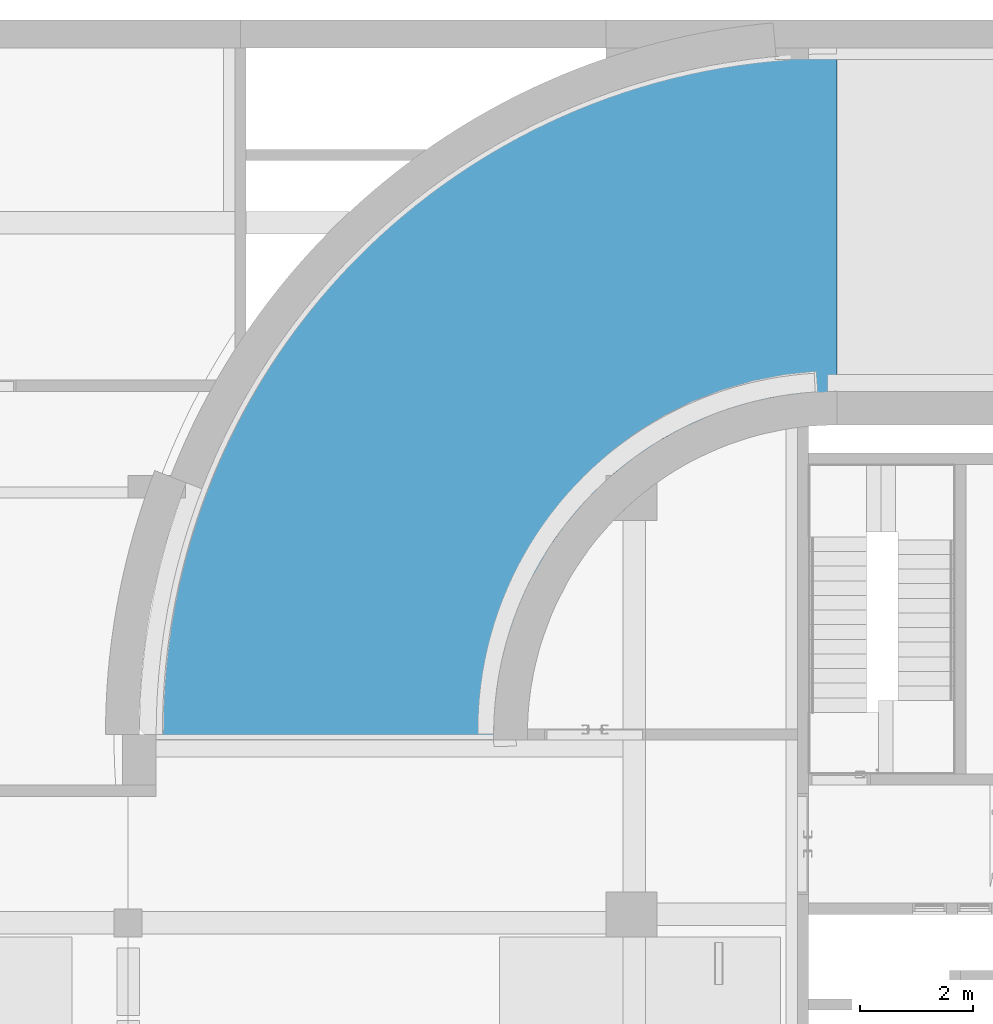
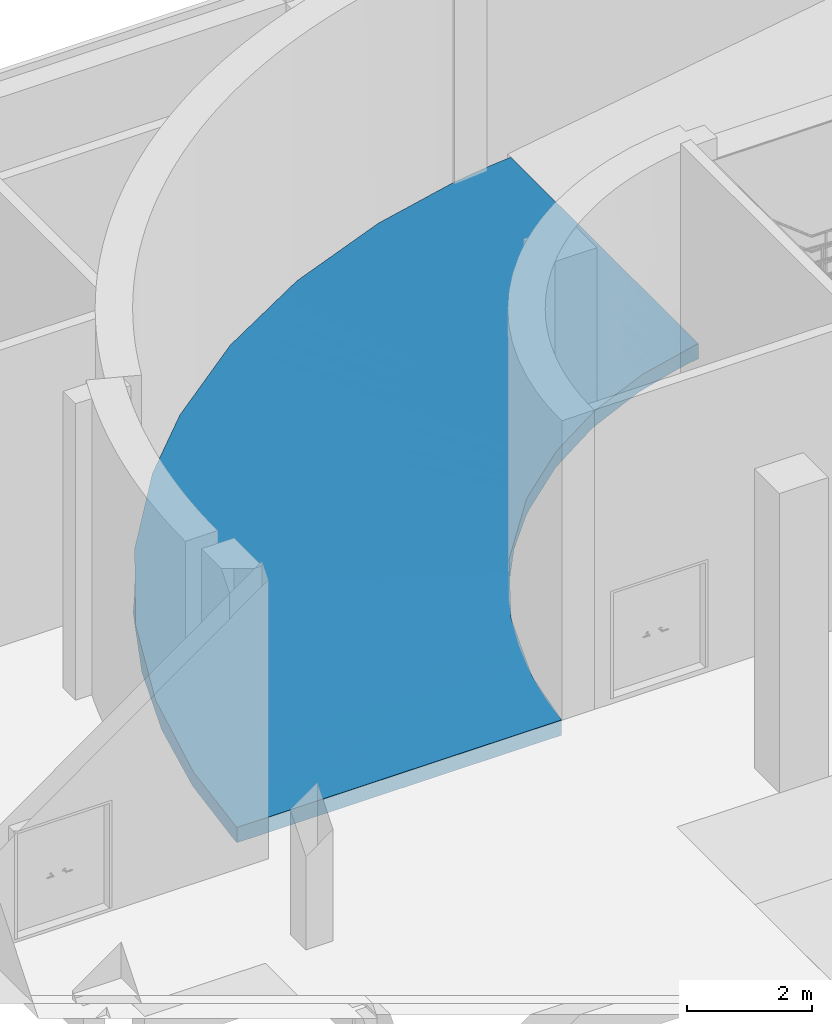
# One storey, part 26 of 29: 1 ramp.
"""IFC2X3 building model written with IfcOpenShell, lengths in millimetres."""

from ifc_helpers import new_model, entity, si_unit, converted_unit, derived_unit, direction, frame, origin, place, context, subcontext, project, spatial, faceted_brep, material, element, save


model = new_model("IFC2X3")

# Units and contexts
model_context = context("Model", 3, precision=0.01, world=origin(), true_north=direction((6.123031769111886e-17, 1.0)))
body_context = subcontext(model_context, "Body", "Model", "MODEL_VIEW")
ifc_project = project(units=[si_unit("LENGTHUNIT", "METRE", prefix="MILLI"), si_unit("AREAUNIT", "SQUARE_METRE"), si_unit("VOLUMEUNIT", "CUBIC_METRE"), converted_unit("PLANEANGLEUNIT", "DEGREE", entity("IfcRatioMeasure", 0.017453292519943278), si_unit("PLANEANGLEUNIT", "RADIAN"), dimensions=[0, 0, 0, 0, 0, 0, 0]), si_unit("MASSUNIT", "GRAM", prefix="KILO"), derived_unit("MASSDENSITYUNIT", [(si_unit("MASSUNIT", "GRAM", prefix="KILO"), 1), (si_unit("LENGTHUNIT", "METRE"), -3)]), derived_unit("MOMENTOFINERTIAUNIT", [(si_unit("LENGTHUNIT", "METRE"), 4)]), si_unit("TIMEUNIT", "SECOND"), si_unit("FREQUENCYUNIT", "HERTZ"), si_unit("THERMODYNAMICTEMPERATUREUNIT", "DEGREE_CELSIUS"), derived_unit("THERMALTRANSMITTANCEUNIT", [(si_unit("MASSUNIT", "GRAM", prefix="KILO"), 1), (si_unit("THERMODYNAMICTEMPERATUREUNIT", "KELVIN"), -1), (si_unit("TIMEUNIT", "SECOND"), -3)]), derived_unit("VOLUMETRICFLOWRATEUNIT", [(si_unit("LENGTHUNIT", "METRE"), 3), (si_unit("TIMEUNIT", "SECOND"), -1)]), derived_unit("MASSFLOWRATEUNIT", [(si_unit("MASSUNIT", "GRAM", prefix="KILO"), 1), (si_unit("TIMEUNIT", "SECOND"), -1)]), derived_unit("ROTATIONALFREQUENCYUNIT", [(si_unit("TIMEUNIT", "SECOND"), -1)]), si_unit("ELECTRICCURRENTUNIT", "AMPERE"), si_unit("ELECTRICVOLTAGEUNIT", "VOLT"), si_unit("POWERUNIT", "WATT"), si_unit("FORCEUNIT", "NEWTON", prefix="KILO"), si_unit("ILLUMINANCEUNIT", "LUX"), si_unit("LUMINOUSFLUXUNIT", "LUMEN"), si_unit("LUMINOUSINTENSITYUNIT", "CANDELA"), derived_unit("USERDEFINED", [(si_unit("MASSUNIT", "GRAM", prefix="KILO"), -1), (si_unit("LENGTHUNIT", "METRE"), -2), (si_unit("TIMEUNIT", "SECOND"), 3), (si_unit("LUMINOUSFLUXUNIT", "LUMEN"), 1)]), derived_unit("SOUNDPOWERUNIT", [(si_unit("MASSUNIT", "GRAM", prefix="KILO"), 1), (si_unit("LENGTHUNIT", "METRE"), 2), (si_unit("TIMEUNIT", "SECOND"), -3)]), derived_unit("SOUNDPRESSUREUNIT", [(si_unit("MASSUNIT", "GRAM", prefix="KILO"), 1), (si_unit("LENGTHUNIT", "METRE"), -1), (si_unit("TIMEUNIT", "SECOND"), -2)]), derived_unit("LINEARVELOCITYUNIT", [(si_unit("LENGTHUNIT", "METRE"), 1), (si_unit("TIMEUNIT", "SECOND"), -1)]), si_unit("PRESSUREUNIT", "PASCAL"), derived_unit("USERDEFINED", [(si_unit("LENGTHUNIT", "METRE"), -2), (si_unit("MASSUNIT", "GRAM", prefix="KILO"), 1), (si_unit("TIMEUNIT", "SECOND"), -2)]), derived_unit("LINEARFORCEUNIT", [(si_unit("MASSUNIT", "GRAM", prefix="KILO"), 1), (si_unit("LENGTHUNIT", "METRE"), 1), (si_unit("TIMEUNIT", "SECOND"), -2), (si_unit("LENGTHUNIT", "METRE"), -1)]), derived_unit("PLANARFORCEUNIT", [(si_unit("MASSUNIT", "GRAM", prefix="KILO"), 1), (si_unit("LENGTHUNIT", "METRE"), 1), (si_unit("TIMEUNIT", "SECOND"), -2), (si_unit("LENGTHUNIT", "METRE"), -2)])], contexts=[model_context])

# Site, building, storey
site_placement = place(None, frame((-14167.972527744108, -657.2125860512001, 0.0)))
site = spatial("IfcSite", under=ifc_project, at=site_placement, Name="Default", CompositionType="ELEMENT")
building_placement = place(site_placement, origin())
building = spatial("IfcBuilding", under=site, at=building_placement, Name="Sample Building", CompositionType="ELEMENT")
storey_placement = place(building_placement, frame((0.0, 0.0, -6100.0)))
storey = spatial("IfcBuildingStorey", under=building, at=storey_placement, Name="지하1층", CompositionType="ELEMENT", Elevation=-6099.999999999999)

# Ramp
ifc_material = material(Name="KBIMS-콘크리트")
ramp_placement = place(storey_placement, origin())
element("IfcRamp", 1, at=ramp_placement, inside=storey, material=ifc_material, Name="바닥:RP111-철근콘크리트구조 램프 (돌음형) 300mm", ObjectType="바닥:RP111-철근콘크리트구조 램프 (돌음형) 300mm", ShapeType="SPIRAL_RAMP", context=body_context, shape_type="Brep", body=[
    faceted_brep([(20738.97232630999, 29926.93576570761, 658.0770551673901), (20734.729595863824, 29860.132539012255, 353.60146371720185), (20621.303414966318, 29718.849789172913, 639.719256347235), (18736.587922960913, 24271.06783358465, -107.41619392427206), (18753.718326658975, 24595.161149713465, 217.48988544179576), (18759.45973356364, 24642.34575360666, -78.86328020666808), (20150.627769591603, 28886.50588303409, 566.288061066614), (20231.888592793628, 29075.037131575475, 282.0079596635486), (20106.178342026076, 28878.763279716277, 264.10958365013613), (19794.576572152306, 28200.80862723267, 206.8347887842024), (19630.789830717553, 27814.18327199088, 474.4990654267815), (19797.62103556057, 28262.24795342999, 511.2146646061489), (21632.885179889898, 31048.6268086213, 768.2238380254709), (21781.870655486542, 31235.57531577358, 786.5816351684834), (21597.358191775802, 31015.527626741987, 464.57139264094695), (21334.914228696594, 30674.729794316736, 731.5082437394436), (18667.972491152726, 23157.234073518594, -193.0749350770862), (18668.309275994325, 23066.934513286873, 100.0), (18689.661538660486, 23448.99117239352, 129.37247136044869), (24608.98378989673, 33572.434733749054, 1069.2917255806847), (24265.750348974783, 33318.997746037, 736.626690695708), (24217.969377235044, 33297.316459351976, 1032.576127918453), (23480.436035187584, 32816.49863790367, 665.0331890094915), (23435.940551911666, 32747.07991055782, 959.14493259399), (23826.954964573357, 33022.1981849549, 995.8605302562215), (22781.646035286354, 32199.299898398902, 593.4396912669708), (23044.92613924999, 32471.961636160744, 922.4293349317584), (23131.04103523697, 32507.899268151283, 629.2364401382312), (22257.553535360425, 31736.400843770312, 539.7445679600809), (22082.856035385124, 31582.101158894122, 521.8461935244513), (22209.37363312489, 31684.88327623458, 834.3119079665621), (22432.251035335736, 31890.70052864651, 557.6429423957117), (20609.019345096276, 29663.858687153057, 335.7030877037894), (21111.860348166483, 30448.954094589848, 407.29659175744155), (21185.928753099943, 30487.781287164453, 713.1504465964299), (21354.60926997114, 30732.240860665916, 435.9339921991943), (23873.09319208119, 33067.74819197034, 700.8299398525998), (21840.107113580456, 31298.814392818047, 493.2087930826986), (21930.856131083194, 31422.52382292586, 804.9394323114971), (27241.348793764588, 34692.31410628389, 1289.5853011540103), (27300.23309577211, 34712.10472866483, 994.363297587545), (26853.74014434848, 34578.10770463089, 958.5665506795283), (19463.958625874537, 27366.118590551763, 437.7834662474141), (19482.974802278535, 27522.85397474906, 149.55999391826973), (19370.351563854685, 27168.339894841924, 121.00708293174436), (18668.309275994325, 23066.93451328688, 0.0), (18668.056645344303, 23112.08443602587, -196.5374715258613), (18668.309275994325, 23066.934513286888, -200.0), (19915.289946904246, 28470.33392996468, 529.5724634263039), (19547.374228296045, 27590.150931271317, 456.1412658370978), (19638.77568721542, 27861.831300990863, 178.19739135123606), (18713.716112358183, 23899.78991356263, -135.96910764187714), (18732.366063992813, 24213.104490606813, 188.117414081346), (18964.22631982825, 25739.18467974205, 6.7954424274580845), (19036.15174380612, 26001.282208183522, 327.6366722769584), (19032.48184858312, 26104.79765512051, 35.34834997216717), (19083.22397999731, 26235.635717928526, 345.99447008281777), (19145.105087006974, 26459.311735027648, 63.901260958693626), (18894.935035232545, 25298.221678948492, 272.5632788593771), (18942.00727142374, 25532.575188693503, 290.92107666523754), (18895.97079107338, 25373.57170436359, -21.757465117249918), (18847.862799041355, 25063.868169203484, 254.20548105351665), (19130.2962161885, 26469.989227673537, 364.35226788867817), (25038.466158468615, 33782.512042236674, 1106.007323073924), (25467.9485270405, 33992.589350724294, 1142.7229205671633), (25390.110295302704, 33977.15031077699, 836.8575952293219), (26068.201560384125, 34288.4572239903, 894.1324009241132), (25897.430895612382, 34202.66665921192, 1179.4385180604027), (26112.172079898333, 34307.705313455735, 1197.7963168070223), (26326.913264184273, 34412.74396769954, 1216.154115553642), (18690.844301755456, 23528.51199354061, -164.52202135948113), (20986.15009739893, 30252.68024273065, 389.39821574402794), (20887.957801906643, 30113.88427285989, 676.4348523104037), (21036.94327750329, 30300.832780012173, 694.7926494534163), (20860.43984663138, 30056.406390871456, 371.4998397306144), (24658.407505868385, 33570.24730010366, 772.4234415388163), (22487.89113516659, 31947.2427295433, 863.6843836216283), (29678.447764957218, 35208.06023961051, 1181.3153701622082), (29667.94641218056, 35207.10619240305, 1180.5064183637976), (29667.94641218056, 35207.10619240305, 1480.5064183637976), (29678.447764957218, 35208.06023961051, 1481.3153701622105), (27746.726047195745, 34846.10175269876, 1030.160044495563), (28155.7843233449, 34971.88424486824, 1363.0164867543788), (28193.21899861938, 34980.0987767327, 1065.956791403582), (29299.26455882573, 35150.35433848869, 1151.869011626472), (28930.58270539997, 35093.60248456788, 1123.2316048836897), (18711.013801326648, 23831.047831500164, 158.74494272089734), (29688.94996382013, 35209.00513667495, 1482.1243215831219), (29688.949963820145, 35209.00513667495, 1182.1243215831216), (20268.29668093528, 29094.591859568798, 584.645859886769), (30517.892982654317, 35254.627744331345, 1545.8195036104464), (30767.972491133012, 35257.21230798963, 1565.0), (30767.972491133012, 35257.21230798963, 1265.0), (30517.892982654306, 35254.627744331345, 1245.819503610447), (26407.247192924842, 34444.11068059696, 922.7698037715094), (26784.131028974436, 34552.52903699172, 1252.8697083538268), (30267.946412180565, 35246.87623716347, 1226.6389270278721), (29978.209132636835, 35231.41099103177, 1204.381623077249), (29978.209132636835, 35231.41099103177, 1504.38162307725), (30267.946412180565, 35246.87623716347, 1526.6389270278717), (25051.064662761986, 33821.49685417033, 808.2201923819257), (25729.155927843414, 34132.803767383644, 865.494998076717), (28911.865367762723, 35089.495218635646, 1421.7614525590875), (28561.90085202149, 35036.85063065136, 1094.5941981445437), (27698.566558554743, 34832.09917557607, 1326.3008939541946), (19950.37745708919, 28539.785953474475, 235.4721862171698), (20032.95885824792, 28678.419906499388, 547.9302622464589), (19297.127421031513, 26918.053909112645, 401.0678670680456), (19380.543023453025, 27142.086249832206, 419.4256666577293), (25682.689711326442, 34097.62800496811, 1161.080719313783), (19257.728325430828, 26813.82581493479, 92.45417194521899), (28533.824845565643, 35030.68973175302, 1392.3889696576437), (22766.408637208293, 32209.602182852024, 893.0568592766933), (18827.71526231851, 25007.95872898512, -50.310372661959), (22070.11488210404, 31553.703549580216, 819.6256701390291), (20483.309094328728, 29467.58483529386, 317.8047116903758), (20385.96559227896, 29302.677836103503, 603.0036587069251), (20503.634503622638, 29510.763812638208, 621.3614575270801), (19213.711818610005, 26694.021568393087, 382.7100674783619), (20357.598843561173, 29271.310983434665, 299.9063356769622), (29289.905890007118, 35148.30070552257, 1451.1339354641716), (18989.079507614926, 25766.928698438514, 309.27887447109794), (30767.97249113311, 32928.6885007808, 1565.0), (30767.97249113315, 29257.212307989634, 1565.0), (30767.97249113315, 29257.212307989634, 1530.3211704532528), (30767.97249113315, 29257.212307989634, 1265.0), (30767.972491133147, 29557.2126170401, 1265.0), (30767.972491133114, 32407.21246251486, 1265.0), (27645.416901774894, 28397.407589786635, 1068.484463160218), (27424.494606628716, 28237.3588466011, 1027.1081634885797), (27620.59625129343, 28382.537446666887, 764.1017799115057), (27191.161986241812, 28069.875031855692, 683.5405221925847), (27203.57231148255, 28077.31010341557, 985.7318638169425), (26982.650016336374, 27917.261360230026, 944.3555641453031), (26761.7277211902, 27757.212617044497, 902.9792644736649), (28336.35853267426, 28732.660243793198, 884.9436606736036), (28574.945959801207, 28849.367842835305, 925.2242875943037), (28383.1405634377, 28751.790241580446, 1192.6133379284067), (27859.183678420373, 28499.245045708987, 804.3824068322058), (28097.77110554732, 28615.952644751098, 844.6630337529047), (27891.32478899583, 28515.53514038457, 1109.8607547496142), (25081.238258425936, 25364.25869775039, 155.72605396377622), (25193.94029253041, 25594.92432992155, 194.6576136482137), (25119.386643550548, 25460.140427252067, 471.35570016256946), (24667.981584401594, 23167.745009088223, -184.7390973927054), (24679.258458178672, 23350.244703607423, -157.0282372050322), (24690.535331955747, 23532.744398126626, -129.31737701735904), (24688.89513099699, 23338.23833194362, 141.26173967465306), (26714.627006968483, 27715.763655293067, 893.4762097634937), (26714.627023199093, 27715.76366972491, 593.4762130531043), (26761.7277211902, 27757.212617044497, 602.9792644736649), (26218.762296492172, 27163.80490956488, 780.8187946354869), (26106.464085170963, 27036.29801815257, 755.0302040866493), (26131.23977064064, 27120.886068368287, 467.17847440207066), (24749.658822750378, 24152.149787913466, 265.0469586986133), (24752.337573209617, 24138.380107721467, -36.947828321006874), (24795.874800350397, 24315.64861783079, 290.83555138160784), (26667.95514177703, 27673.832475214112, 883.9731568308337), (26667.95514177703, 27673.832475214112, 583.9731568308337), (25994.165873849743, 26908.791126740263, 729.2416135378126), (25881.86766252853, 26781.284235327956, 703.4530229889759), (25981.441426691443, 26912.394857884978, 428.2469289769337), (24668.640567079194, 23066.934513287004, 100.0), (30617.08072963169, 29243.661246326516, 1542.022749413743), (30577.068621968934, 29254.22433952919, 1236.0944710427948), (25306.642326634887, 25825.589962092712, 233.58917333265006), (25419.344360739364, 26056.255594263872, 272.5207330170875), (25444.47804737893, 26056.958885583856, 574.5100663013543), (30496.254117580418, 29232.81023064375, 1523.6237108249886), (28137.232676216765, 28633.66269098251, 1151.2370463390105), (30386.40684531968, 29245.2668131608, 1207.188617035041), (30360.39493080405, 29220.60919197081, 1502.9355662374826), (30224.535744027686, 29208.40815329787, 1482.2474216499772), (25688.296600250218, 26504.5727293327, 651.875840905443), (25607.023749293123, 26355.368114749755, 626.0872493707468), (25681.84473879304, 26495.41243691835, 350.38383812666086), (25769.569451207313, 26653.777343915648, 677.6644324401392), (29952.817370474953, 29184.00607595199, 1440.8711324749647), (30188.75857397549, 29219.833536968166, 1176.9781340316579), (29085.379859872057, 28996.450775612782, 1005.7854863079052), (29340.59680990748, 29069.99224200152, 1046.0660856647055), (29155.07372379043, 29014.760895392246, 1316.742236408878), (29418.086360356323, 29087.182446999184, 1358.118539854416), (29595.81375994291, 29143.53370839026, 1086.3466850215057), (28892.061087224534, 28942.339343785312, 1275.3659329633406), (28830.162909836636, 28922.909309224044, 965.5048869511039), (24842.090777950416, 24479.14744774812, 316.6241440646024), (24791.586066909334, 24379.016428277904, 0.0), (24709.149694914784, 23609.542150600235, 182.5234793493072), (24713.0890795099, 23897.743787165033, -73.89565664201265), (24729.40425883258, 23880.84596925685, 223.78521902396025), (24701.812205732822, 23715.244092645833, -101.60651682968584), (28629.048450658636, 28869.917792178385, 1233.9896295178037), (24667.974764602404, 23162.478836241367, -185.53634659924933), (24668.640567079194, 23066.934513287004, 0.0), (25525.750898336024, 26206.163500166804, 600.2986578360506), (24668.640567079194, 23066.934513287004, -200.0), (24668.139498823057, 23112.074010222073, -193.16683522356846), (25831.64308274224, 26703.90364740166, 389.3153835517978), (24667.97249113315, 23157.212617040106, -186.33359475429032), (29681.09899692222, 29159.60399860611, 1399.4948432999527), (25532.04639484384, 26286.921226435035, 311.45229270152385), (25008.825210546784, 25117.948130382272, 116.79454047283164), (25026.954688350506, 25133.14276741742, 419.7785147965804), (24936.412162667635, 24871.637563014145, 77.86302698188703), (29793.462031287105, 29168.966984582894, 1116.557168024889), (26265.418613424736, 27259.12267007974, 496.3771450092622), (26399.597456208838, 27397.359271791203, 525.5758156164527), (26533.776298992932, 27535.595873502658, 554.7744862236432), (26443.358719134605, 27418.818692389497, 832.3959757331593), (25073.170665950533, 25296.641597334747, 445.56710747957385), (29991.1103026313, 29194.400260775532, 1146.7676510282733), (24863.999114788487, 24625.326995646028, 38.931513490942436), (25281.93234546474, 25758.54965641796, 522.9328832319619), (26976.44485371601, 27913.543824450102, 643.2598933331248), (27405.879118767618, 28226.20623926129, 723.8211510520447), (24934.52273315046, 24806.145107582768, 368.2013294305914), (25200.659494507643, 25609.345041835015, 497.14429169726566), (26555.656930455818, 27546.325583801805, 858.184566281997), (24980.738710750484, 24969.64393750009, 393.9899221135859), (26331.060507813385, 27291.31180097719, 806.6073851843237), (24888.306755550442, 24642.64627766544, 342.41273674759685), (20996.96131260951, 23066.934513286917, 100.0), (20996.96131260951, 23066.93451328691, -200.0), (30279.603358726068, 32292.046582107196, 1515.5101019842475), (24703.63424665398, 29937.804719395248, 888.7245705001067), (25594.186818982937, 30814.159598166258, 1014.2182915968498), (25991.08928038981, 30925.84279817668, 1054.0523445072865), (29943.43789090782, 32218.427329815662, 1480.9108710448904), (25336.97688685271, 30630.61886160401, 982.5207978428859), (28594.74428936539, 32126.290750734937, 1344.6586942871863), (22217.37744037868, 26517.248993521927, 456.1411978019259), (22575.17900516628, 26762.87375294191, 493.54739418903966), (24390.66958727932, 29190.478764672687, 811.5849388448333), (24291.38228346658, 29750.32234977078, 845.2902567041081), (26555.07061101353, 31340.999311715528, 1124.3650771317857), (29487.465608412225, 32330.137498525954, 1436.4477584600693), (26297.713147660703, 31054.81572935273, 1087.6494776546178), (29001.96035486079, 31610.89783755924, 1374.1962344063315), (23094.17738251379, 28545.99321447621, 676.434872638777), (23514.59769391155, 28736.105309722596, 716.8108776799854), (26827.9433321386, 31503.54023980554, 1156.199225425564), (27849.784855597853, 32054.88161516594, 1271.2275086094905), (27499.307698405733, 31791.10713221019, 1229.5526502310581), (25128.727481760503, 29930.03741424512, 921.6368614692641), (25216.54980207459, 30289.925116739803, 952.0698799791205), (23148.80147171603, 28098.558492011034, 642.4373181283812), (23827.015748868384, 29304.510696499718, 780.8751731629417), (23812.9967882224, 28911.818416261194, 749.8660638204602), (21651.457839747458, 25158.523786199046, 309.278925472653), (23068.140830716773, 27696.608222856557, 603.0036135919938), (22658.596036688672, 27576.012734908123, 571.4984227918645), (21752.693359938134, 24802.93036426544, 276.479080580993), (21767.554175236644, 23733.98264926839, 168.56933140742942), (21772.4912294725, 24051.242981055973, 201.0486300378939), (21771.03708445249, 23360.13806158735, 130.18543179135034), (22169.13023987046, 25388.514910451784, 344.68850008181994), (22065.13777062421, 26237.22597042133, 424.3458831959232), (21966.91853378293, 25816.72164620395, 381.095625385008), (21596.46494415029, 24419.93344650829, 235.8477356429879), (22371.591275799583, 27252.184473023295, 529.5724240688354), (29143.853898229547, 32380.087580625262, 1403.4247626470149), (27157.861236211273, 31788.657255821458, 1197.7962744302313), (28287.06726175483, 32053.453001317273, 1312.919948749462), (29506.92774807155, 32269.469932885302, 1137.550381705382), (21656.5893484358, 24406.756509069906, -64.58679471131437), (29952.869699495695, 32202.133994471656, 1181.7198178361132), (30198.939976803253, 32550.32030491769, 1208.9252356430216), (30483.084543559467, 32328.688236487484, 1236.22903573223), (28255.568784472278, 32142.324752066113, 1012.2616603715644), (28582.357217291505, 32150.565395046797, 1044.0215934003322), (27625.02781179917, 31769.155062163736, 940.6681660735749), (24265.20056205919, 29606.891011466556, 533.2687962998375), (27351.115209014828, 31508.409164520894, 905.0839770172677), (25304.94095251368, 30615.666600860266, 679.0386717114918), (24985.796408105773, 30507.475830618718, 647.1348719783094), (28973.683522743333, 31694.43268982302, 1073.0579253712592), (29147.732800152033, 32279.688640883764, 1102.075414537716), (21869.767058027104, 23545.155164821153, -150.24548929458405), (21511.942851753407, 23911.505499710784, -115.63330423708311), (24706.916974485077, 29589.913447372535, 564.7880741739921), (24771.23961208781, 30002.20953410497, 598.2276485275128), (25575.129558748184, 30924.224948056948, 718.7283382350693), (21874.06015072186, 25609.040940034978, 58.39727786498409), (27987.6675167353, 31875.273254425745, 978.869750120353), (23909.96610945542, 29242.253172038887, 481.77782279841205), (23480.829192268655, 28821.92408097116, 421.52910076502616), (23180.366617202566, 28645.397029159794, 389.3982035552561), (22671.321075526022, 27673.408813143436, 280.6341038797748), (22620.069843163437, 27329.591144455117, 247.7754621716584), (22765.672884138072, 26892.30307245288, 214.1233841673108), (22008.713620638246, 26310.620526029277, 129.3013154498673), (22184.989702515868, 25836.03456843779, 89.66829962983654), (26258.990899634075, 31177.913719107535, 790.3218410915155), (21897.374137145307, 24883.30750738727, -12.632855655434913), (22002.872642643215, 25179.73453905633, 19.465763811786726), (22807.831264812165, 28026.04759607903, 317.8046993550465), (22220.517805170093, 26598.88227139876, 163.87878485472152), (23040.510880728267, 28254.549498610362, 349.5315496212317), (25947.768733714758, 30954.990018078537, 751.8483350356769), (26637.764353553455, 31204.09919085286, 825.5265310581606), (26930.251870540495, 31315.612170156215, 857.5227951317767), (24064.878945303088, 28722.335945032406, 451.60326495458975)], [[[0, 1, 2]], [[3, 4, 5]], [[6, 7, 8]], [[9, 10, 11]], [[12, 13, 14, 15]], [[16, 17, 18]], [[19, 20, 21]], [[22, 23, 24]], [[25, 26, 27]], [[28, 29, 30, 31]], [[1, 32, 2]], [[33, 34, 35]], [[36, 22, 24]], [[37, 13, 38]], [[38, 29, 37]], [[39, 40, 41]], [[42, 43, 44]], [[45, 17, 16]], [[45, 46, 47]], [[46, 45, 16]], [[48, 9, 11]], [[49, 10, 50]], [[51, 52, 3]], [[53, 54, 55]], [[55, 56, 57]], [[50, 43, 49]], [[34, 15, 35]], [[58, 59, 60, 61]], [[56, 62, 57]], [[63, 64, 65]], [[66, 67, 68, 69]], [[16, 18, 70]], [[71, 72, 73]], [[72, 71, 74]], [[63, 75, 19]], [[76, 25, 31]], [[77, 78, 79, 80]], [[81, 82, 83]], [[79, 78, 84, 85]], [[86, 51, 70]], [[87, 88, 77, 80]], [[6, 89, 7]], [[90, 91, 92, 93]], [[94, 69, 95]], [[96, 97, 98, 99]], [[39, 41, 95]], [[90, 93, 96, 99]], [[87, 98, 97, 88]], [[75, 63, 100]], [[69, 94, 66]], [[64, 101, 65]], [[95, 41, 94]], [[102, 85, 103, 83]], [[100, 63, 65]], [[40, 104, 81]], [[105, 48, 106]], [[19, 75, 20]], [[44, 107, 108, 42]], [[67, 101, 64, 109]], [[107, 44, 110]], [[30, 76, 31]], [[83, 82, 111, 102]], [[26, 25, 76, 112]], [[23, 27, 26]], [[27, 23, 22]], [[113, 4, 61]], [[21, 36, 24]], [[29, 38, 114, 30]], [[15, 14, 35]], [[115, 116, 117]], [[106, 8, 105]], [[118, 57, 62]], [[86, 70, 18]], [[0, 74, 1]], [[74, 0, 72]], [[55, 54, 56]], [[43, 42, 49]], [[8, 106, 6]], [[33, 73, 34]], [[89, 119, 7]], [[101, 67, 66]], [[36, 21, 20]], [[116, 115, 119]], [[51, 86, 52]], [[9, 48, 105]], [[73, 33, 71]], [[110, 118, 107]], [[59, 53, 60]], [[10, 9, 50]], [[85, 102, 120, 79]], [[40, 39, 104]], [[14, 13, 37]], [[119, 89, 116]], [[32, 117, 2]], [[57, 118, 110]], [[54, 53, 59, 121]], [[117, 32, 115]], [[4, 3, 52]], [[82, 81, 104]], [[4, 113, 5]], [[61, 60, 113]], [[91, 122, 123, 124, 125, 126, 127, 92]], [[128, 129, 130]], [[131, 132, 133, 134]], [[135, 136, 137]], [[138, 139, 140]], [[141, 142, 143]], [[144, 145, 146, 147]], [[148, 149, 150]], [[151, 152, 153]], [[154, 155, 156]], [[149, 148, 157]], [[157, 158, 149]], [[134, 148, 150]], [[159, 160, 161, 152]], [[147, 162, 144]], [[125, 163, 164]], [[165, 166, 167]], [[163, 168, 164]], [[169, 140, 139]], [[170, 168, 171, 172]], [[173, 174, 175, 176]], [[177, 178, 172]], [[164, 168, 170]], [[179, 180, 181]], [[182, 180, 183]], [[184, 185, 179]], [[163, 125, 124, 123]], [[186, 156, 187]], [[139, 135, 169]], [[178, 170, 172]], [[188, 147, 146]], [[189, 190, 191]], [[189, 155, 190]], [[136, 185, 192]], [[193, 144, 194]], [[167, 166, 195]], [[194, 196, 197]], [[198, 161, 160]], [[193, 194, 199]], [[197, 199, 194]], [[200, 182, 183]], [[174, 195, 201]], [[202, 203, 204]], [[144, 162, 194]], [[175, 174, 201]], [[183, 205, 200]], [[153, 206, 151]], [[207, 208, 209]], [[175, 198, 176]], [[130, 138, 128]], [[210, 141, 143]], [[154, 190, 155]], [[177, 205, 211, 178]], [[212, 186, 187]], [[192, 137, 136]], [[213, 165, 167]], [[134, 150, 214, 131]], [[137, 169, 135]], [[131, 215, 132]], [[212, 204, 216]], [[217, 143, 142, 213]], [[182, 181, 180]], [[181, 184, 179]], [[200, 205, 177]], [[187, 156, 155]], [[160, 176, 198]], [[153, 152, 161]], [[201, 195, 166]], [[141, 210, 202]], [[208, 158, 218]], [[204, 203, 219, 216]], [[146, 191, 188]], [[188, 191, 190]], [[203, 202, 210]], [[209, 220, 207]], [[165, 213, 142]], [[140, 128, 138]], [[184, 192, 185]], [[129, 132, 215]], [[221, 186, 212, 216]], [[215, 130, 129]], [[206, 207, 220]], [[220, 151, 206]], [[157, 218, 158]], [[218, 209, 208]], [[194, 162, 222, 17, 45, 47, 223, 196]], [[224, 172, 171, 168]], [[134, 225, 148]], [[21, 226, 227]], [[98, 87, 228]], [[90, 99, 224]], [[24, 23, 229]], [[104, 230, 82]], [[10, 231, 232]], [[233, 209, 234]], [[80, 79, 228]], [[235, 64, 63]], [[120, 102, 236]], [[122, 90, 224]], [[19, 237, 63]], [[224, 99, 98]], [[76, 225, 112]], [[19, 227, 237]], [[238, 82, 230]], [[239, 73, 72, 0]], [[73, 239, 240]], [[241, 64, 235]], [[90, 122, 91]], [[192, 242, 243]], [[172, 224, 228]], [[244, 112, 225]], [[229, 245, 132]], [[228, 87, 80]], [[0, 246, 239]], [[247, 12, 248]], [[134, 244, 225]], [[249, 54, 121, 59]], [[228, 79, 120]], [[167, 250, 251]], [[252, 154, 156, 186]], [[122, 224, 168]], [[229, 132, 226]], [[177, 172, 228]], [[52, 253, 254]], [[18, 255, 86]], [[157, 148, 225]], [[209, 218, 234]], [[256, 62, 56, 54]], [[218, 157, 225]], [[203, 231, 257]], [[177, 236, 200]], [[176, 239, 246]], [[228, 224, 98]], [[256, 258, 62]], [[259, 252, 61]], [[251, 106, 260]], [[200, 236, 261]], [[227, 128, 237]], [[218, 225, 234]], [[122, 168, 163, 123]], [[132, 129, 226]], [[247, 38, 13, 12]], [[236, 102, 261]], [[120, 236, 228]], [[228, 236, 177]], [[234, 225, 76]], [[233, 30, 114, 38]], [[30, 233, 234]], [[261, 102, 111]], [[235, 169, 241]], [[230, 181, 182]], [[244, 26, 112]], [[261, 238, 200]], [[240, 248, 15]], [[233, 151, 220, 209]], [[134, 133, 244]], [[240, 159, 248]], [[12, 15, 248]], [[245, 26, 244]], [[133, 132, 245]], [[248, 159, 152, 151]], [[247, 151, 233]], [[128, 140, 237]], [[235, 237, 140]], [[21, 24, 226]], [[129, 128, 227]], [[227, 19, 21]], [[237, 235, 63]], [[169, 235, 140]], [[226, 24, 229]], [[227, 226, 129]], [[262, 137, 243]], [[262, 241, 137]], [[241, 169, 137]], [[262, 69, 68, 67]], [[241, 67, 109, 64]], [[245, 244, 133]], [[230, 104, 263]], [[181, 230, 263]], [[238, 230, 182]], [[104, 39, 263]], [[39, 95, 242]], [[263, 39, 242]], [[184, 181, 263]], [[262, 243, 69]], [[240, 176, 160, 159]], [[240, 15, 34, 73]], [[241, 262, 67]], [[243, 137, 192]], [[242, 192, 184]], [[95, 69, 243]], [[243, 242, 95]], [[263, 242, 184]], [[250, 246, 117]], [[240, 239, 176]], [[250, 174, 246]], [[250, 117, 116, 89]], [[246, 174, 173, 176]], [[246, 0, 2, 117]], [[251, 250, 89]], [[250, 167, 195, 174]], [[200, 238, 182]], [[238, 111, 82]], [[238, 261, 111]], [[234, 76, 30]], [[151, 247, 248]], [[38, 247, 233]], [[260, 106, 48, 11]], [[213, 260, 232]], [[251, 89, 6, 106]], [[251, 260, 167]], [[232, 260, 11]], [[260, 213, 167]], [[231, 10, 49, 42]], [[232, 143, 217, 213]], [[232, 11, 10]], [[231, 203, 210, 143]], [[231, 42, 257]], [[232, 231, 143]], [[216, 219, 258]], [[203, 257, 219]], [[257, 42, 108, 107]], [[258, 257, 107]], [[257, 258, 219]], [[258, 107, 118, 62]], [[186, 249, 252]], [[258, 256, 216]], [[249, 256, 54]], [[256, 186, 221, 216]], [[249, 59, 252]], [[256, 249, 186]], [[259, 254, 190]], [[4, 259, 61]], [[252, 59, 58, 61]], [[252, 259, 154]], [[259, 4, 254]], [[259, 190, 154]], [[222, 255, 18]], [[52, 86, 253]], [[190, 254, 188]], [[162, 147, 255]], [[188, 254, 253]], [[147, 188, 253]], [[253, 86, 255]], [[18, 17, 222]], [[229, 23, 245]], [[26, 245, 23]], [[254, 4, 52]], [[162, 255, 222]], [[253, 255, 147]], [[211, 205, 264]], [[265, 189, 191]], [[266, 97, 267]], [[164, 268, 126]], [[269, 270, 180]], [[96, 93, 268]], [[266, 170, 178, 211]], [[81, 269, 40]], [[94, 41, 271]], [[272, 29, 28, 31]], [[267, 97, 96]], [[66, 94, 273]], [[274, 275, 22]], [[276, 277, 183]], [[146, 278, 279]], [[84, 78, 266]], [[280, 208, 272]], [[264, 205, 277]], [[144, 223, 278]], [[268, 93, 127]], [[275, 274, 214]], [[126, 125, 164]], [[127, 93, 92]], [[267, 268, 170]], [[170, 268, 164]], [[70, 278, 223]], [[214, 281, 275]], [[215, 131, 282]], [[212, 283, 204]], [[77, 266, 78]], [[269, 284, 40]], [[266, 88, 97]], [[150, 149, 281]], [[273, 136, 135]], [[272, 206, 285]], [[145, 144, 278, 146]], [[208, 207, 206, 272]], [[3, 5, 279, 51]], [[286, 198, 287]], [[269, 81, 270]], [[286, 287, 33]], [[288, 166, 289]], [[290, 105, 289]], [[280, 31, 25]], [[25, 281, 280]], [[88, 266, 77]], [[113, 265, 5]], [[211, 264, 266]], [[278, 51, 279]], [[281, 158, 280]], [[16, 223, 46]], [[16, 70, 223]], [[266, 264, 84]], [[291, 202, 292]], [[83, 103, 276]], [[199, 197, 223]], [[138, 130, 293]], [[187, 294, 295]], [[288, 296, 201]], [[43, 297, 291]], [[150, 281, 214]], [[277, 85, 264]], [[223, 144, 193]], [[165, 142, 290]], [[287, 198, 298]], [[265, 191, 279]], [[223, 47, 46]], [[197, 196, 223]], [[296, 298, 175]], [[193, 199, 223]], [[282, 20, 299]], [[278, 70, 51]], [[85, 84, 264]], [[281, 25, 27]], [[158, 281, 149]], [[270, 83, 276]], [[22, 275, 27]], [[185, 284, 179]], [[179, 269, 180]], [[284, 185, 271]], [[179, 284, 269]], [[41, 284, 271]], [[41, 40, 284]], [[183, 180, 276]], [[270, 81, 83]], [[273, 271, 136]], [[185, 136, 271]], [[300, 65, 301]], [[273, 301, 66]], [[273, 94, 271]], [[301, 65, 101, 66]], [[27, 275, 281]], [[131, 214, 274]], [[36, 282, 274]], [[282, 131, 274]], [[20, 282, 36]], [[282, 299, 215]], [[274, 22, 36]], [[130, 215, 299]], [[75, 293, 299]], [[293, 130, 299]], [[100, 293, 75]], [[300, 293, 100]], [[299, 20, 75]], [[139, 138, 300]], [[293, 300, 138]], [[301, 139, 300]], [[301, 135, 139]], [[135, 301, 273]], [[205, 183, 277]], [[280, 158, 208]], [[142, 297, 290]], [[290, 297, 50]], [[202, 291, 141]], [[50, 297, 43]], [[141, 297, 142]], [[55, 283, 295]], [[141, 291, 297]], [[44, 43, 291]], [[165, 290, 289]], [[50, 9, 105, 290]], [[296, 119, 115, 32]], [[166, 165, 289]], [[166, 288, 201]], [[8, 288, 289]], [[288, 8, 7, 119]], [[119, 296, 288]], [[175, 201, 296]], [[287, 74, 71, 33]], [[175, 298, 198]], [[32, 298, 296]], [[298, 32, 1, 74]], [[74, 287, 298]], [[285, 206, 153]], [[105, 8, 289]], [[286, 161, 198]], [[153, 161, 302]], [[286, 35, 302]], [[285, 153, 302]], [[286, 33, 35]], [[276, 103, 277]], [[270, 276, 180]], [[294, 53, 295]], [[110, 44, 292, 57]], [[191, 146, 279]], [[300, 100, 65]], [[103, 85, 277]], [[212, 187, 295]], [[204, 283, 292]], [[283, 57, 292]], [[212, 295, 283]], [[294, 113, 60, 53]], [[5, 265, 279]], [[113, 294, 265]], [[294, 155, 265]], [[294, 187, 155]], [[189, 265, 155]], [[204, 292, 202]], [[291, 292, 44]], [[53, 55, 295]], [[266, 267, 170]], [[268, 267, 96]], [[127, 126, 268]], [[14, 302, 35]], [[37, 29, 285, 14]], [[285, 302, 14]], [[286, 302, 161]], [[280, 272, 31]], [[29, 272, 285]], [[283, 55, 57]]]),
])

save(model, "model.ifc")
